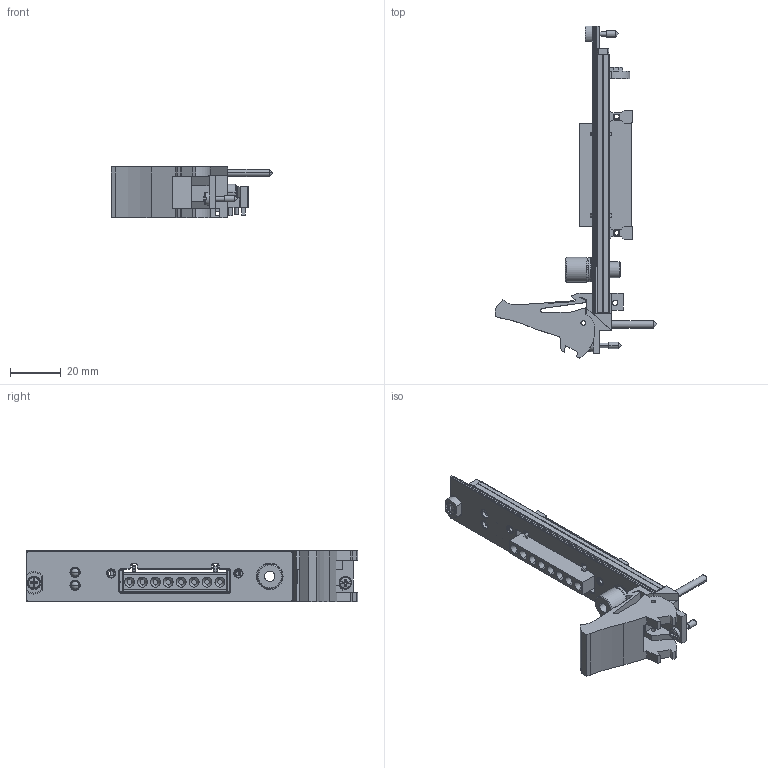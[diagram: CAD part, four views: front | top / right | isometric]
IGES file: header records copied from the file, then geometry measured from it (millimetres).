
Start section:  PTC IGES file: cu_pxie-4138.igs
Global section: file name: cu_pxie-4138.igs; native system: Pro/ENGINEER by Parametric Technology Corporation; preprocessor: 2011490; author: jjorden; organization: Unknown; date: 20131122.180834; units: inch
Bounding box: 63.53 x 130.51 x 20.29 mm (x, y, z)
Surface area: 19612.7 mm2 (no closed solid volume)
Topology: 0 solids, 0 shells, 837 faces, 4444 edges, 4436 vertices
Faces by surface type: bspline 572, revolution 265
